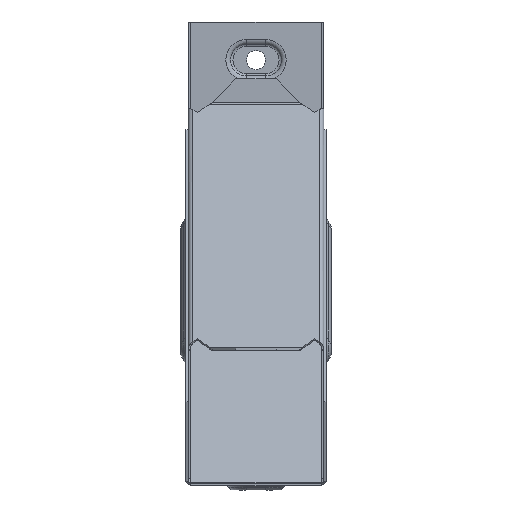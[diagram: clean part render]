
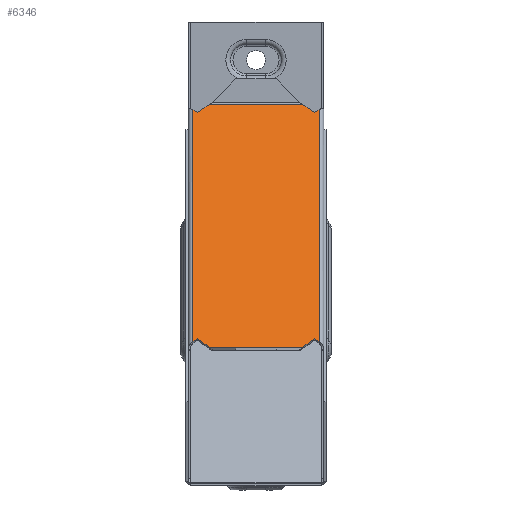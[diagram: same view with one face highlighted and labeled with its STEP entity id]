
A CAD part, front view. The second image highlights one B-rep face of the part: STEP entity #6346.
In plain terms, the highlighted planar face has unit normal (0, -0.707, 0.707).
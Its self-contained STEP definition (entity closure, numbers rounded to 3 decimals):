
#41 = EDGE_LOOP ( 'NONE', ( #1495, #1568, #2153, #6074, #183, #2344, #4396, #3579, #881, #201, #3103, #2180 ) ) ;
#154 = VECTOR ( 'NONE', #377, 1000. ) ;
#167 = CARTESIAN_POINT ( 'NONE',  ( 25.299, -29.208, -59.208 ) ) ;
#183 = ORIENTED_EDGE ( 'NONE', *, *, #1878, .T. ) ;
#201 = ORIENTED_EDGE ( 'NONE', *, *, #3668, .T. ) ;
#219 = VECTOR ( 'NONE', #930, 1000. ) ;
#305 = VECTOR ( 'NONE', #1909, 1000. ) ;
#377 = DIRECTION ( 'NONE',  ( 0., -0.707, -0.707 ) ) ;
#413 = EDGE_CURVE ( 'NONE', #4499, #2024, #6093, .T. ) ;
#515 = CARTESIAN_POINT ( 'NONE',  ( 23.2, 57.724, 27.724 ) ) ;
#548 = VECTOR ( 'NONE', #2787, 1000. ) ;
#636 = DIRECTION ( 'NONE',  ( 0.707, -0.5, -0.5 ) ) ;
#695 = VECTOR ( 'NONE', #2864, 1000. ) ;
#864 = CARTESIAN_POINT ( 'NONE',  ( 23.2, 59.707, 29.707 ) ) ;
#881 = ORIENTED_EDGE ( 'NONE', *, *, #5664, .F. ) ;
#930 = DIRECTION ( 'NONE',  ( -0.707, -0.5, -0.5 ) ) ;
#990 = CARTESIAN_POINT ( 'NONE',  ( 21.592, -26.588, -56.588 ) ) ;
#1102 = LINE ( 'NONE', #167, #1403 ) ;
#1125 = DIRECTION ( 'NONE',  ( 0., -0.707, -0.707 ) ) ;
#1138 = FACE_OUTER_BOUND ( 'NONE', #41, .T. ) ;
#1157 = CARTESIAN_POINT ( 'NONE',  ( 17.886, -29.208, -59.208 ) ) ;
#1242 = PLANE ( 'NONE',  #4065 ) ;
#1305 = LINE ( 'NONE', #864, #695 ) ;
#1373 = LINE ( 'NONE', #2168, #4663 ) ;
#1403 = VECTOR ( 'NONE', #4185, 1000. ) ;
#1408 = DIRECTION ( 'NONE',  ( -1., 0., 0. ) ) ;
#1469 = LINE ( 'NONE', #4395, #305 ) ;
#1495 = ORIENTED_EDGE ( 'NONE', *, *, #4661, .T. ) ;
#1496 = VECTOR ( 'NONE', #1125, 1000. ) ;
#1568 = ORIENTED_EDGE ( 'NONE', *, *, #1814, .T. ) ;
#1727 = DIRECTION ( 'NONE',  ( 0., 0.707, 0.707 ) ) ;
#1814 = EDGE_CURVE ( 'NONE', #5513, #5028, #3899, .T. ) ;
#1878 = EDGE_CURVE ( 'NONE', #2985, #2924, #1469, .T. ) ;
#1909 = DIRECTION ( 'NONE',  ( -0.707, 0.5, 0.5 ) ) ;
#1923 = CARTESIAN_POINT ( 'NONE',  ( 25.299, 59.208, 29.208 ) ) ;
#1931 = CARTESIAN_POINT ( 'NONE',  ( -23.2, -27.724, -57.724 ) ) ;
#2024 = VERTEX_POINT ( 'NONE', #2068 ) ;
#2068 = CARTESIAN_POINT ( 'NONE',  ( -21.592, -26.588, -56.588 ) ) ;
#2153 = ORIENTED_EDGE ( 'NONE', *, *, #4626, .T. ) ;
#2168 = CARTESIAN_POINT ( 'NONE',  ( -2.5, -40.088, -70.088 ) ) ;
#2180 = ORIENTED_EDGE ( 'NONE', *, *, #4432, .F. ) ;
#2330 = CARTESIAN_POINT ( 'NONE',  ( 23.2, 60., 30. ) ) ;
#2344 = ORIENTED_EDGE ( 'NONE', *, *, #2908, .T. ) ;
#2480 = LINE ( 'NONE', #3274, #5296 ) ;
#2517 = CARTESIAN_POINT ( 'NONE',  ( -23.2, 60., 30. ) ) ;
#2787 = DIRECTION ( 'NONE',  ( -0.707, 0.5, 0.5 ) ) ;
#2833 = CARTESIAN_POINT ( 'NONE',  ( 17.886, 59.208, 29.208 ) ) ;
#2857 = LINE ( 'NONE', #4419, #5678 ) ;
#2864 = DIRECTION ( 'NONE',  ( -1., 0., 0. ) ) ;
#2908 = EDGE_CURVE ( 'NONE', #2924, #4499, #6182, .T. ) ;
#2924 = VERTEX_POINT ( 'NONE', #4576 ) ;
#2958 = CARTESIAN_POINT ( 'NONE',  ( -17.181, 59.707, 29.707 ) ) ;
#2985 = VERTEX_POINT ( 'NONE', #5601 ) ;
#3030 = EDGE_CURVE ( 'NONE', #4753, #3097, #1102, .T. ) ;
#3050 = VECTOR ( 'NONE', #6308, 1000. ) ;
#3097 = VERTEX_POINT ( 'NONE', #4204 ) ;
#3103 = ORIENTED_EDGE ( 'NONE', *, *, #3030, .T. ) ;
#3210 = CARTESIAN_POINT ( 'NONE',  ( 23.2, 60., 30. ) ) ;
#3274 = CARTESIAN_POINT ( 'NONE',  ( -2.5, 70.088, 40.088 ) ) ;
#3447 = VERTEX_POINT ( 'NONE', #515 ) ;
#3449 = LINE ( 'NONE', #1157, #3918 ) ;
#3579 = ORIENTED_EDGE ( 'NONE', *, *, #5763, .T. ) ;
#3668 = EDGE_CURVE ( 'NONE', #5412, #4753, #3449, .T. ) ;
#3672 = DIRECTION ( 'NONE',  ( 0.707, 0.5, 0.5 ) ) ;
#3814 = LINE ( 'NONE', #1923, #219 ) ;
#3842 = VERTEX_POINT ( 'NONE', #2958 ) ;
#3899 = LINE ( 'NONE', #2833, #548 ) ;
#3918 = VECTOR ( 'NONE', #3672, 1000. ) ;
#4065 = AXIS2_PLACEMENT_3D ( 'NONE', #3210, #6203, #1727 ) ;
#4185 = DIRECTION ( 'NONE',  ( 0.707, -0.5, -0.5 ) ) ;
#4204 = CARTESIAN_POINT ( 'NONE',  ( 23.2, -27.724, -57.724 ) ) ;
#4375 = DIRECTION ( 'NONE',  ( -0.707, -0.5, -0.5 ) ) ;
#4395 = CARTESIAN_POINT ( 'NONE',  ( -25.299, 59.208, 29.208 ) ) ;
#4396 = ORIENTED_EDGE ( 'NONE', *, *, #413, .T. ) ;
#4419 = CARTESIAN_POINT ( 'NONE',  ( 23.2, -29.707, -59.707 ) ) ;
#4432 = EDGE_CURVE ( 'NONE', #3447, #3097, #5545, .T. ) ;
#4499 = VERTEX_POINT ( 'NONE', #1931 ) ;
#4576 = CARTESIAN_POINT ( 'NONE',  ( -23.2, 57.724, 27.724 ) ) ;
#4626 = EDGE_CURVE ( 'NONE', #5028, #3842, #1305, .T. ) ;
#4661 = EDGE_CURVE ( 'NONE', #3447, #5513, #3814, .T. ) ;
#4663 = VECTOR ( 'NONE', #636, 1000. ) ;
#4753 = VERTEX_POINT ( 'NONE', #990 ) ;
#5028 = VERTEX_POINT ( 'NONE', #6364 ) ;
#5055 = EDGE_CURVE ( 'NONE', #3842, #2985, #2480, .T. ) ;
#5296 = VECTOR ( 'NONE', #4375, 1000. ) ;
#5404 = CARTESIAN_POINT ( 'NONE',  ( -25.299, -29.208, -59.208 ) ) ;
#5412 = VERTEX_POINT ( 'NONE', #5681 ) ;
#5513 = VERTEX_POINT ( 'NONE', #6288 ) ;
#5545 = LINE ( 'NONE', #2330, #154 ) ;
#5586 = VERTEX_POINT ( 'NONE', #5854 ) ;
#5601 = CARTESIAN_POINT ( 'NONE',  ( -21.592, 56.588, 26.588 ) ) ;
#5664 = EDGE_CURVE ( 'NONE', #5412, #5586, #2857, .T. ) ;
#5678 = VECTOR ( 'NONE', #1408, 1000. ) ;
#5681 = CARTESIAN_POINT ( 'NONE',  ( 17.181, -29.707, -59.707 ) ) ;
#5763 = EDGE_CURVE ( 'NONE', #2024, #5586, #1373, .T. ) ;
#5854 = CARTESIAN_POINT ( 'NONE',  ( -17.181, -29.707, -59.707 ) ) ;
#6074 = ORIENTED_EDGE ( 'NONE', *, *, #5055, .T. ) ;
#6093 = LINE ( 'NONE', #5404, #3050 ) ;
#6182 = LINE ( 'NONE', #2517, #1496 ) ;
#6203 = DIRECTION ( 'NONE',  ( 0., 0.707, -0.707 ) ) ;
#6288 = CARTESIAN_POINT ( 'NONE',  ( 21.592, 56.588, 26.588 ) ) ;
#6308 = DIRECTION ( 'NONE',  ( 0.707, 0.5, 0.5 ) ) ;
#6346 = ADVANCED_FACE ( 'NONE', ( #1138 ), #1242, .F. ) ;
#6364 = CARTESIAN_POINT ( 'NONE',  ( 17.181, 59.707, 29.707 ) ) ;
